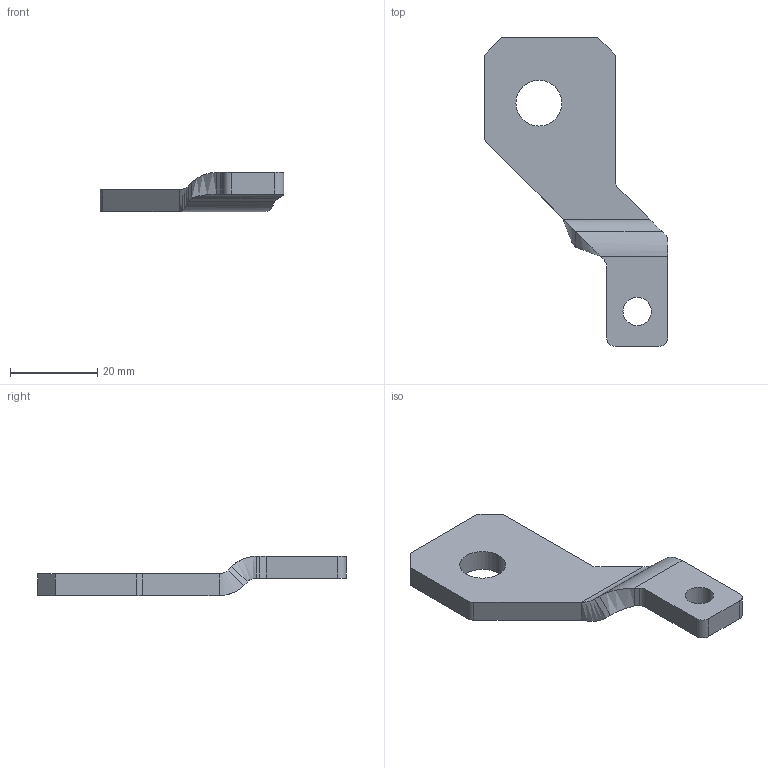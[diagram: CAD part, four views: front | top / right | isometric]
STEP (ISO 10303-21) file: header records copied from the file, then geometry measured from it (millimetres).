
FILE_DESCRIPTION (( 'STEP AP203' ), '1' );
FILE_NAME ('8LD.580.1044-M5-160.STEP', '2024-09-19T12:18:49', ( 'A' ), ( '' ), 'SwSTEP 2.0', 'SolidWorks 2018', '' );
FILE_SCHEMA (( 'CONFIG_CONTROL_DESIGN' ));
Length unit declared in the file: millimetre
Products named in the file (1): 8LD.580.1044-M5-160
Bounding box: 42 x 70.7 x 9 mm (x, y, z)
Volume: 7260.5 mm3; surface area: 4157.5 mm2
Topology: 1 solids, 1 shells, 38 faces, 92 edges, 56 vertices
Faces by surface type: plane 20, cylinder 13, bspline 5
Entity records: 1302 total; most frequent: CARTESIAN_POINT 368, ORIENTED_EDGE 184, DIRECTION 168, EDGE_CURVE 92, LINE 60, VECTOR 60, VERTEX_POINT 56, AXIS2_PLACEMENT_3D 54
